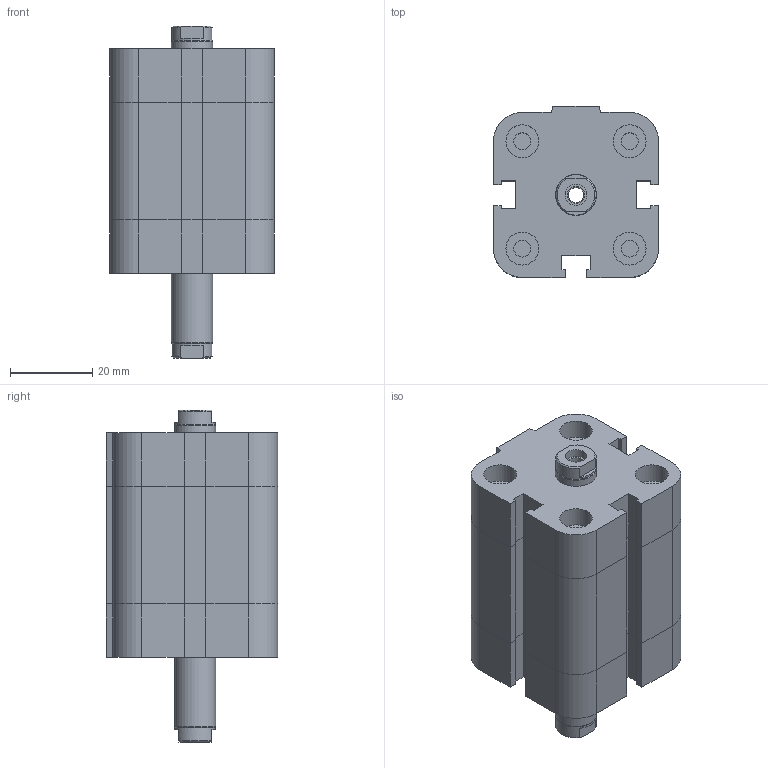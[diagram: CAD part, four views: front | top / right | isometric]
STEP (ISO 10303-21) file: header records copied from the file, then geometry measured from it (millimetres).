
FILE_DESCRIPTION((''),'2;1');
FILE_NAME('I:\Area Tecnica\Disegni\VARIE-3D\Componenti\EUROPE\15##_###_####_06_#\1581_25_0015_06_1.iam.stp','2009-04-20T15:09:04',(''),(''),'Autodesk Inventor 2009','Autodesk Inventor 2009','');
FILE_SCHEMA(('AUTOMOTIVE_DESIGN { 1 0 10303 214 1 1 1 1 }'));
Length unit declared in the file: millimetre
Products named in the file (3): 1581_25_0015_06_1; 1581_25_0015_03_1_C; 1561_25_0015_06_1_S
Assembly tree (2 placements, depth 2):
  1581_25_0015_06_1
    1581_25_0015_03_1_C
    1561_25_0015_06_1_S
Bounding box: 40 x 41.5 x 80.5 mm (x, y, z)
Volume: 77741.9 mm3; surface area: 21279 mm2
Topology: 2 solids, 2 shells, 175 faces, 382 edges, 233 vertices
Faces by surface type: plane 114, bspline 30, cylinder 25, cone 6
Full cylindrical faces by diameter (mm): 4.134 x5, 5.2 x1, 8 x4, 9.8 x2, 10 x1
Entity records: 4805 total; most frequent: CARTESIAN_POINT 1042, DIRECTION 712, ORIENTED_EDGE 680, EDGE_CURVE 340, VECTOR 252, LINE 252, AXIS2_PLACEMENT_3D 230, EDGE_LOOP 230
